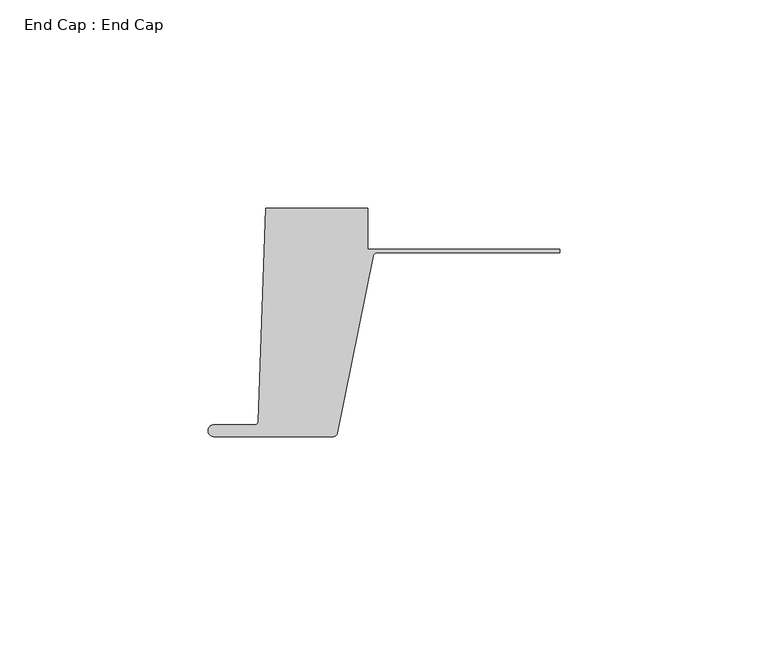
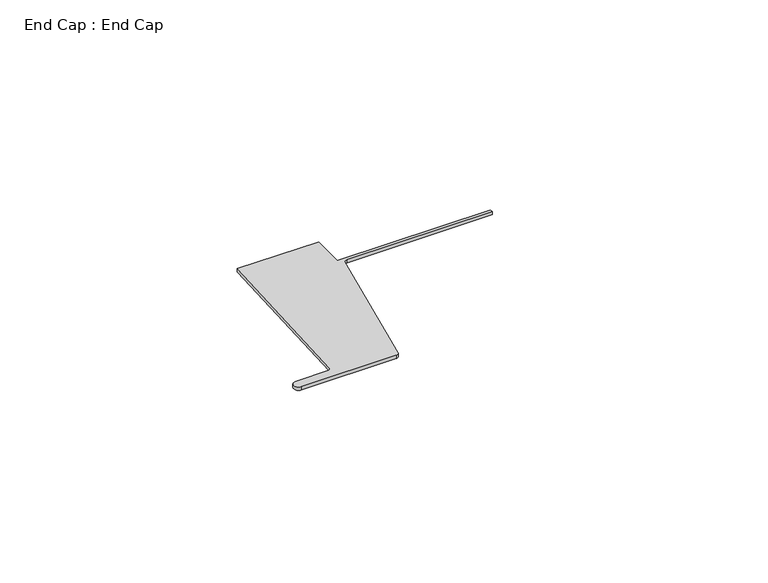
"""IFC4 building model written with IfcOpenShell, lengths in millimetres: proxy geometry, End Cap : End Cap."""

from ifc_helpers import new_model, si_unit, point, frame_2d, origin, origin_with_axes, place, context, project, spatial, polyline, circle_curve, trimmed, segment, composite_curve, outline, extrude, source, transform, mapped, element, save


def end_cap_end_cap_c93f98a4(model_context):
    return source(origin(), model_context, "Body", "SweptSolid", [
        extrude(outline(composite_curve([segment(polyline([(70.6839118, -10.6756594), (26.8108844, -10.6756594)]), True, "CONTINUOUS"), segment(trimmed(circle_curve(frame_2d((26.8108844, -11.604451)), 0.9287916), [point((26.8108844, -10.6756594))], [point((25.9007386, -11.4192797))], True, "CARTESIAN"), True, "CONTINUOUS"), segment(polyline([(25.9007386, -11.4192797), (17.2161586, -54.1053539)]), True, "CONTINUOUS"), segment(trimmed(circle_curve(frame_2d((16.2733518, -53.9135377)), 0.9621217), [point((17.2161586, -54.1053539))], [point((16.2733518, -54.8756594))], False, "CARTESIAN"), True, "CONTINUOUS"), segment(polyline([(16.2733518, -54.8756594), (-12.4444064, -54.8756594)]), True, "CONTINUOUS"), segment(trimmed(circle_curve(frame_2d((-12.4444064, -53.4756594)), 1.4), [point((-12.4444064, -54.8756594))], [point((-12.4444064, -52.0756594))], False, "CARTESIAN"), True, "CONTINUOUS"), segment(polyline([(-12.4444064, -52.0756594), (-2.5910731, -52.0756594)]), True, "CONTINUOUS"), segment(trimmed(circle_curve(frame_2d((-2.5910731, -51.2756594)), 0.8), [point((-2.5910731, -52.0756594))], [point((-1.7915605, -51.303579))], True, "CARTESIAN"), True, "CONTINUOUS"), segment(polyline([(-1.7915605, -51.303579), (0.0, 0.0), (24.520194, 0.0), (24.520194, -9.8756594), (70.6839118, -9.8756594), (70.6839118, -10.6756594)]), True, "CONTINUOUS")], self_intersect=False)), origin_with_axes(), (0.0, 0.0, 1.0), 1.0493669),
    ])


if __name__ == "__main__":
    model = new_model("IFC4")
    model_context = context("Model", 3, world=origin())
    ifc_project = project(units=[si_unit("LENGTHUNIT", "METRE", prefix="MILLI")], contexts=[model_context])
    site = spatial("IfcSite", under=ifc_project)
    building = spatial("IfcBuilding", under=site)
    placement = place(None, origin())
    end_cap_end_cap_shape = end_cap_end_cap_c93f98a4(model_context)
    element("IfcBuildingElementProxy", 1, Name="End Cap : End Cap", ObjectType="End Cap : End Cap", at=placement, inside=building, context=model_context, shape_type="MappedRepresentation", body=[
        mapped(end_cap_end_cap_shape, transform((0.0, 0.0, 0.0), x_axis=(1.0, 0.0, 0.0), y_axis=(0.0, 1.0, 0.0), z_axis=(0.0, 0.0, 1.0))),
    ])
    save(model, "model.ifc")
